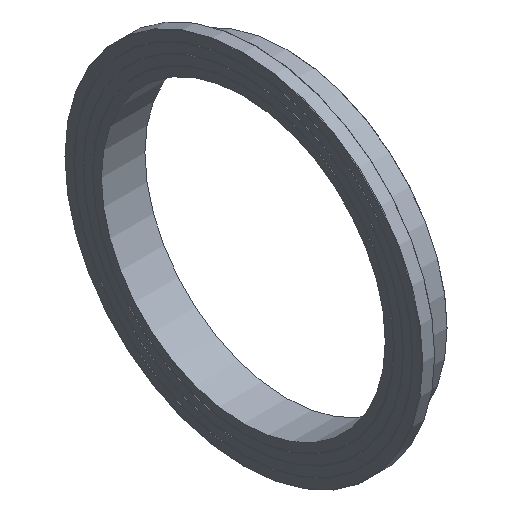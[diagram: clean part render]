
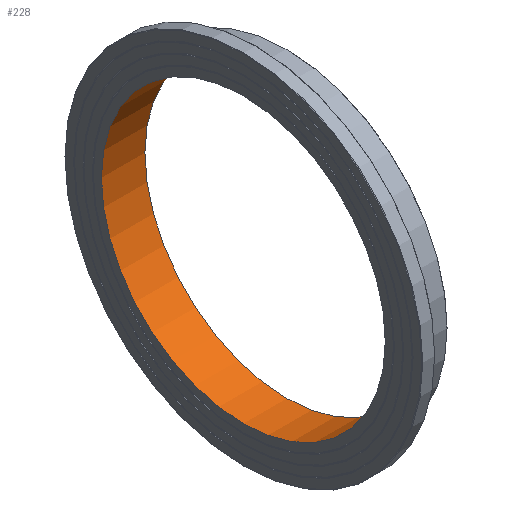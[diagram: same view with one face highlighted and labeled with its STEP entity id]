
A CAD part, isometric view. The second image highlights one B-rep face of the part: STEP entity #228.
In plain terms, the highlighted cylindrical face has radius 440.7 mm (diameter 881.4 mm), a full revolution.
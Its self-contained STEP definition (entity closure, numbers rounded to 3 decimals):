
#33=CYLINDRICAL_SURFACE('',#274,440.7);
#50=ORIENTED_EDGE('',*,*,#79,.F.);
#51=ORIENTED_EDGE('',*,*,#76,.T.);
#76=EDGE_CURVE('',#96,#96,#116,.T.);
#79=EDGE_CURVE('',#99,#99,#119,.T.);
#96=VERTEX_POINT('',#383);
#99=VERTEX_POINT('',#390);
#116=CIRCLE('',#257,440.7);
#119=CIRCLE('',#261,440.7);
#150=EDGE_LOOP('',(#50));
#151=EDGE_LOOP('',(#51));
#190=FACE_BOUND('',#150,.T.);
#191=FACE_BOUND('',#151,.T.);
#228=ADVANCED_FACE('',(#190,#191),#33,.F.);
#257=AXIS2_PLACEMENT_3D('',#382,#303,#304);
#261=AXIS2_PLACEMENT_3D('',#389,#311,#312);
#274=AXIS2_PLACEMENT_3D('',#410,#337,#338);
#303=DIRECTION('',(-1.,0.,0.));
#304=DIRECTION('',(0.,0.,1.));
#311=DIRECTION('',(-1.,0.,0.));
#312=DIRECTION('',(0.,0.,1.));
#337=DIRECTION('',(-1.,0.,0.));
#338=DIRECTION('',(0.,0.,1.));
#382=CARTESIAN_POINT('',(0.,0.,0.));
#383=CARTESIAN_POINT('',(0.,0.,440.7));
#389=CARTESIAN_POINT('',(135.,0.,0.));
#390=CARTESIAN_POINT('',(135.,0.,440.7));
#410=CARTESIAN_POINT('',(60.,0.,0.));
